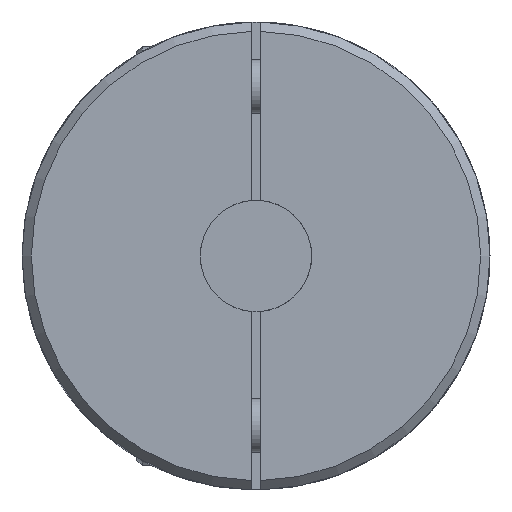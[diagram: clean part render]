
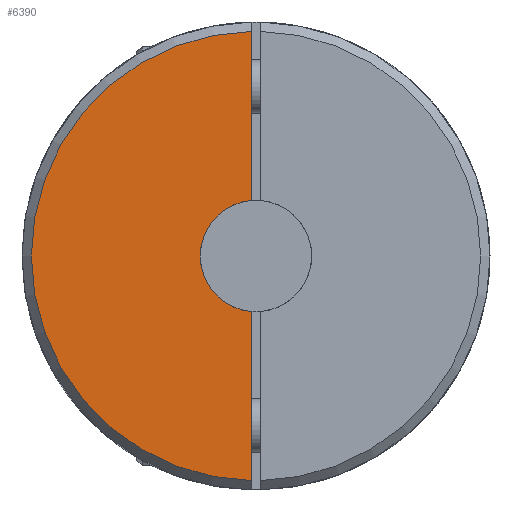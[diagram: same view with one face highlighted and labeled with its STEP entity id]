
A CAD part, left-side view. The second image highlights one B-rep face of the part: STEP entity #6390.
In plain terms, the highlighted planar face has unit normal (-1, 0, 0).
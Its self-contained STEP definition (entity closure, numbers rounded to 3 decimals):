
#523=PLANE('',#6871);
#662=FACE_OUTER_BOUND('',#1068,.T.);
#1068=EDGE_LOOP('',(#4359,#4360,#4361,#4362));
#1501=CIRCLE('',#6801,12.5);
#1545=CIRCLE('',#6869,50.4);
#2041=LINE('',#9928,#2331);
#2064=LINE('',#10191,#2354);
#2331=VECTOR('',#7757,1000.);
#2354=VECTOR('',#7912,1000.);
#2617=VERTEX_POINT('',#9911);
#2619=VERTEX_POINT('',#9914);
#2624=VERTEX_POINT('',#9927);
#2679=VERTEX_POINT('',#10183);
#3254=EDGE_CURVE('',#2619,#2617,#1501,.T.);
#3261=EDGE_CURVE('',#2624,#2619,#2041,.T.);
#3337=EDGE_CURVE('',#2624,#2679,#1545,.T.);
#3340=EDGE_CURVE('',#2617,#2679,#2064,.T.);
#4359=ORIENTED_EDGE('',*,*,#3254,.T.);
#4360=ORIENTED_EDGE('',*,*,#3340,.T.);
#4361=ORIENTED_EDGE('',*,*,#3337,.F.);
#4362=ORIENTED_EDGE('',*,*,#3261,.T.);
#6390=ADVANCED_FACE('',(#662),#523,.F.);
#6801=AXIS2_PLACEMENT_3D('',#9915,#7744,#7745);
#6869=AXIS2_PLACEMENT_3D('',#10184,#7906,#7907);
#6871=AXIS2_PLACEMENT_3D('',#10190,#7910,#7911);
#7744=DIRECTION('center_axis',(1.,0.,0.));
#7745=DIRECTION('ref_axis',(0.,0.,1.));
#7757=DIRECTION('',(0.,0.,1.));
#7906=DIRECTION('center_axis',(1.,0.,0.));
#7907=DIRECTION('ref_axis',(0.,0.,-1.));
#7910=DIRECTION('center_axis',(1.,0.,0.));
#7911=DIRECTION('ref_axis',(0.,0.,-1.));
#7912=DIRECTION('',(0.,0.,1.));
#9911=CARTESIAN_POINT('',(-194.5,1.,12.46));
#9914=CARTESIAN_POINT('',(-194.5,1.,-12.46));
#9915=CARTESIAN_POINT('Origin',(-194.5,0.,0.));
#9927=CARTESIAN_POINT('',(-194.5,1.,-50.39));
#9928=CARTESIAN_POINT('',(-194.5,1.,-52.49));
#10183=CARTESIAN_POINT('',(-194.5,1.,50.39));
#10184=CARTESIAN_POINT('Origin',(-194.5,0.,0.));
#10190=CARTESIAN_POINT('Origin',(-194.5,0.,0.));
#10191=CARTESIAN_POINT('',(-194.5,1.,-52.49));
